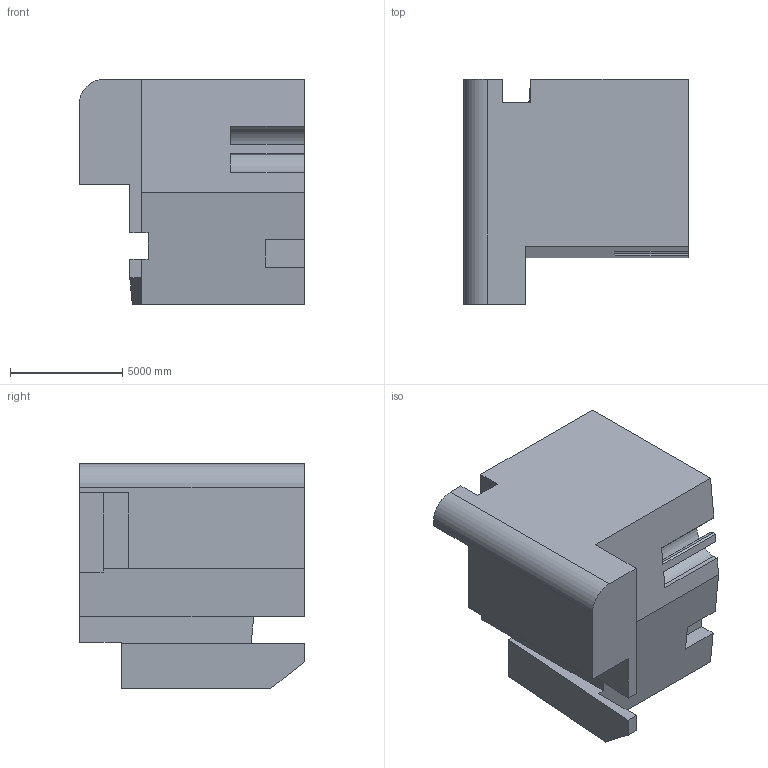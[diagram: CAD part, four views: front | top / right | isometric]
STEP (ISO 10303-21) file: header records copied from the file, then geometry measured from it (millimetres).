
FILE_DESCRIPTION (( 'STEP AP203' ), '1' );
FILE_NAME ('906.STEP', '2022-07-29T14:11:10', ( 'user' ), ( '' ), 'SwSTEP 2.0', 'SolidWorks 2021', '' );
FILE_SCHEMA (( 'CONFIG_CONTROL_DESIGN' ));
Length unit declared in the file: centimetre
Products named in the file (1): 906
Bounding box: 10000 x 10000 x 10000 mm (x, y, z)
Volume: 630179525851.8 mm3; surface area: 533643313.4 mm2
Topology: 1 solids, 1 shells, 41 faces, 116 edges, 77 vertices
Faces by surface type: plane 34, cylinder 7
Entity records: 1393 total; most frequent: CARTESIAN_POINT 235, ORIENTED_EDGE 232, DIRECTION 214, EDGE_CURVE 116, LINE 102, VECTOR 102, VERTEX_POINT 77, AXIS2_PLACEMENT_3D 56
